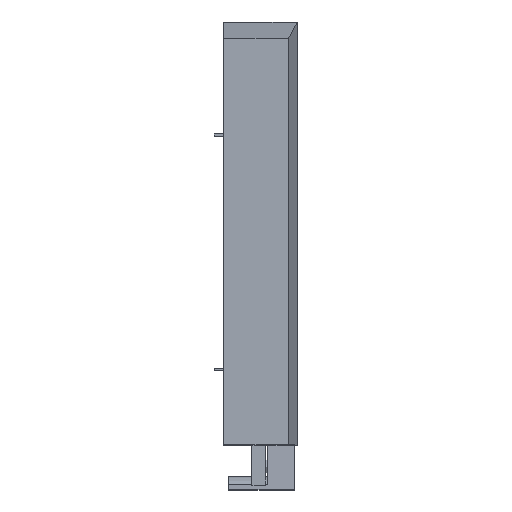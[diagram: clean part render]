
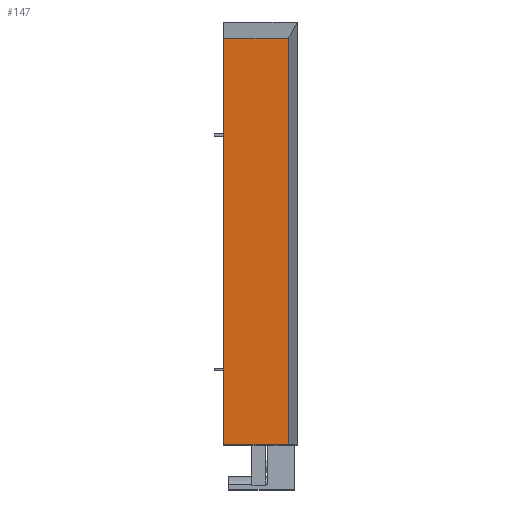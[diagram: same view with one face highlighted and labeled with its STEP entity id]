
A CAD part, top view. The second image highlights one B-rep face of the part: STEP entity #147.
In plain terms, the highlighted planar face has unit normal (0, 0, 1).
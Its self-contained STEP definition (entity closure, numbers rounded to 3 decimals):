
#147 = ADVANCED_FACE ( 'NONE', ( #558 ), #1138, .F. ) ;
#161 = DIRECTION ( 'NONE',  ( 0., -1., 0. ) ) ;
#240 = CARTESIAN_POINT ( 'NONE',  ( 40.35, 213.029, 23.136 ) ) ;
#380 = EDGE_CURVE ( 'NONE', #1873, #447, #4290, .T. ) ;
#395 = EDGE_CURVE ( 'NONE', #3328, #960, #1318, .T. ) ;
#445 = EDGE_CURVE ( 'NONE', #3328, #1873, #2066, .T. ) ;
#447 = VERTEX_POINT ( 'NONE', #1059 ) ;
#535 = LINE ( 'NONE', #1860, #2476 ) ;
#558 = FACE_OUTER_BOUND ( 'NONE', #2906, .T. ) ;
#734 = CARTESIAN_POINT ( 'NONE',  ( 0., -9.2, 23.136 ) ) ;
#786 = AXIS2_PLACEMENT_3D ( 'NONE', #4107, #1229, #1863 ) ;
#925 = VECTOR ( 'NONE', #1737, 1000. ) ;
#960 = VERTEX_POINT ( 'NONE', #734 ) ;
#1057 = VECTOR ( 'NONE', #3299, 1000. ) ;
#1059 = CARTESIAN_POINT ( 'NONE',  ( 0., 213.029, 23.136 ) ) ;
#1131 = ORIENTED_EDGE ( 'NONE', *, *, #380, .T. ) ;
#1138 = PLANE ( 'NONE',  #786 ) ;
#1229 = DIRECTION ( 'NONE',  ( 0., 0., -1. ) ) ;
#1318 = LINE ( 'NONE', #2304, #2589 ) ;
#1671 = CARTESIAN_POINT ( 'NONE',  ( 35.35, 213.029, 23.136 ) ) ;
#1737 = DIRECTION ( 'NONE',  ( 0., 1., 0. ) ) ;
#1860 = CARTESIAN_POINT ( 'NONE',  ( 0., 0., 23.136 ) ) ;
#1863 = DIRECTION ( 'NONE',  ( 0., 1., 0. ) ) ;
#1873 = VERTEX_POINT ( 'NONE', #1986 ) ;
#1986 = CARTESIAN_POINT ( 'NONE',  ( 35.35, 213.029, 23.136 ) ) ;
#2066 = LINE ( 'NONE', #1671, #925 ) ;
#2140 = CARTESIAN_POINT ( 'NONE',  ( 35.35, -9.2, 23.136 ) ) ;
#2304 = CARTESIAN_POINT ( 'NONE',  ( 40.35, -9.2, 23.136 ) ) ;
#2355 = ORIENTED_EDGE ( 'NONE', *, *, #3410, .T. ) ;
#2476 = VECTOR ( 'NONE', #161, 1000. ) ;
#2585 = DIRECTION ( 'NONE',  ( -1., 0., 0. ) ) ;
#2589 = VECTOR ( 'NONE', #2585, 1000. ) ;
#2906 = EDGE_LOOP ( 'NONE', ( #4130, #4122, #1131, #2355 ) ) ;
#3299 = DIRECTION ( 'NONE',  ( -1., 0., 0. ) ) ;
#3328 = VERTEX_POINT ( 'NONE', #2140 ) ;
#3410 = EDGE_CURVE ( 'NONE', #447, #960, #535, .T. ) ;
#4107 = CARTESIAN_POINT ( 'NONE',  ( 40.35, 0., 23.136 ) ) ;
#4122 = ORIENTED_EDGE ( 'NONE', *, *, #445, .T. ) ;
#4130 = ORIENTED_EDGE ( 'NONE', *, *, #395, .F. ) ;
#4290 = LINE ( 'NONE', #240, #1057 ) ;
